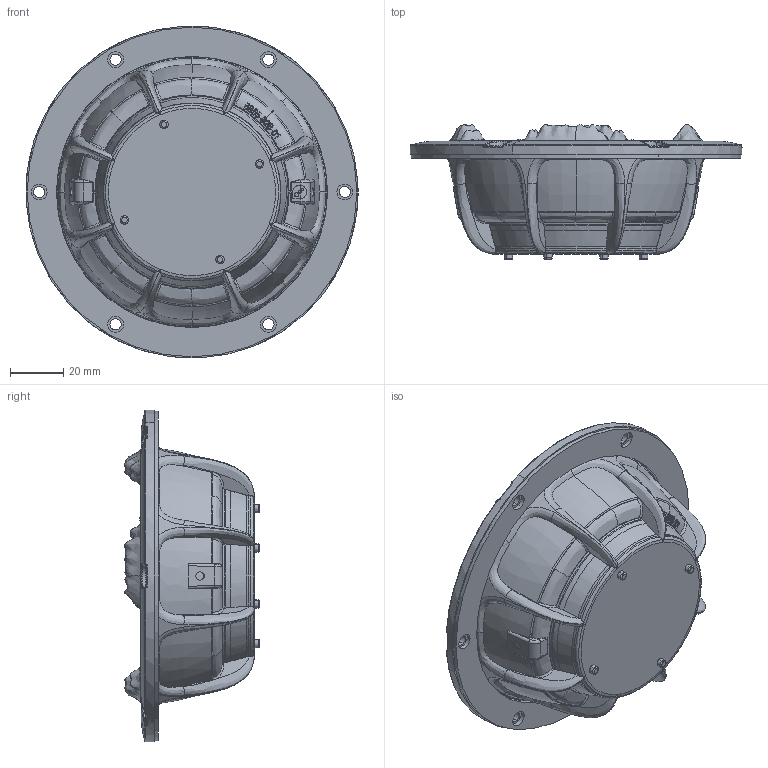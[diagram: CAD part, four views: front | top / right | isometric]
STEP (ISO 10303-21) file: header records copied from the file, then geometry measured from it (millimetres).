
FILE_DESCRIPTION (( 'STEP AP203' ), '1' );
FILE_NAME ('DU87-016-01 Passive.STEP', '2023-08-31T08:38:19', ( '' ), ( '' ), 'SwSTEP 2.0', 'SolidWorks 2022', '' );
FILE_SCHEMA (( 'CONFIG_CONTROL_DESIGN' ));
Products named in the file (1): DU87-016-01 Passive
Bounding box: 124.88 x 50.68 x 124.88 mm (x, y, z)
Volume: 250623.9 mm3; surface area: 46939.3 mm2
Topology: 1 solids, 7 shells, 1154 faces, 2950 edges, 1821 vertices
Faces by surface type: bspline 630, torus 154, cone 104, plane 101, cylinder 91, sphere 74
Entity records: 275025 total; most frequent: CARTESIAN_POINT 252818, ORIENTED_EDGE 5818, DIRECTION 2969, EDGE_CURVE 2909, VERTEX_POINT 1807, B_SPLINE_CURVE_WITH_KNOTS 1695, AXIS2_PLACEMENT_3D 1379, EDGE_LOOP 1202
